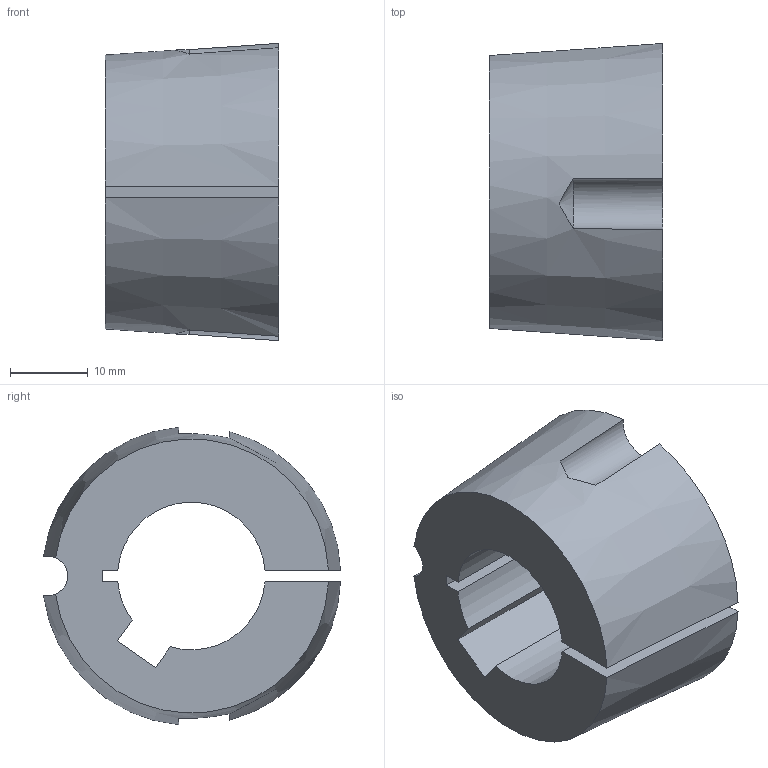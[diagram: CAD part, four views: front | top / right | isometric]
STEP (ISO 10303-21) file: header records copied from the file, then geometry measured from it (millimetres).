
FILE_DESCRIPTION( ( 'STEP AP203' ), '1' );
FILE_NAME( 'D:/export/antriebselemente/spannbuchsen_und_spannsaetze/taper-spannbuchsen_1008_bis_5050/taper-spannbuchsen_62250219Isometric_26.stp', '2018-12-11T11:10:59', ( '' ), ( '' ), ' ', 'PARTsolutions', ' ' );
FILE_SCHEMA( ( 'CONFIG_CONTROL_DESIGN' ) );
Length unit declared in the file: millimetre
Products named in the file (1): _taper-spannbuchsen_62250219
Bounding box: 22.3 x 38.22 x 38.26 mm (x, y, z)
Volume: 16045.4 mm3; surface area: 6088 mm2
Topology: 1 solids, 1 shells, 20 faces, 54 edges, 36 vertices
Faces by surface type: plane 10, cylinder 6, cone 4
Entity records: 736 total; most frequent: CARTESIAN_POINT 187, ORIENTED_EDGE 108, DIRECTION 104, EDGE_CURVE 54, AXIS2_PLACEMENT_3D 39, VERTEX_POINT 36, LINE 26, VECTOR 26
